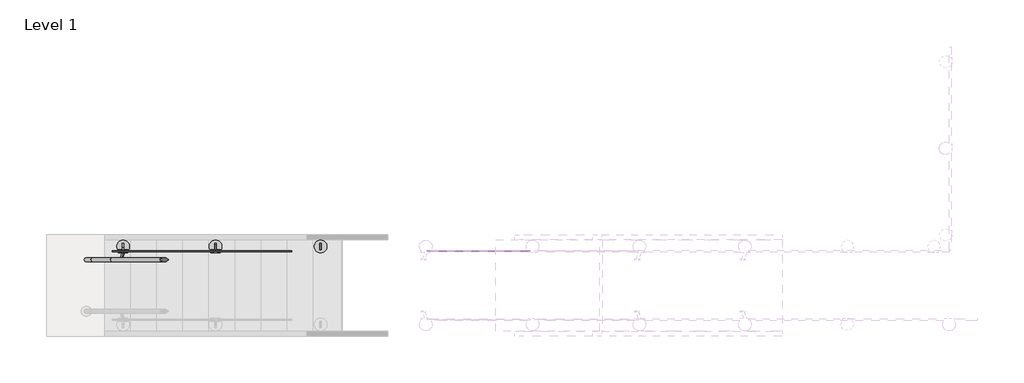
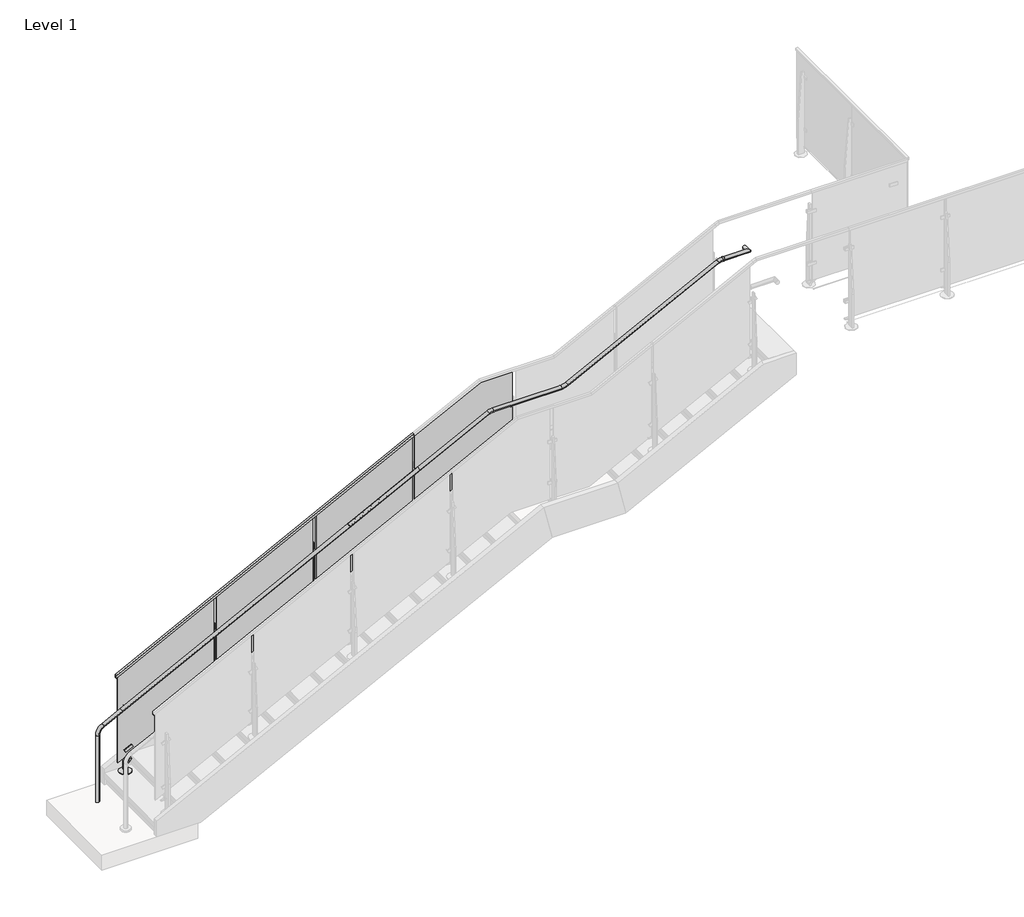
# One storey, part 6 of 37: 2 railings.
"""IFC4 building model written with IfcOpenShell, lengths in millimetres."""

from ifc_helpers import new_model, si_unit, point, frame, frame_2d, origin, place, context, project, spatial, polyline, circle_curve, ellipse_curve, trimmed, segment, composite_curve, outline, extrude, faceted_brep, transform, mapped, element, save
from ifc_brep_helpers import plane_surface, cylinder_surface, revolved_surface, advanced_brep
from components import baluster_landing_panel_viva_solo_lower_standard_glass_54ab52bf

model = new_model("IFC4")

# Units and contexts
model_context = context("Model", 3, world=origin())
ifc_project = project(units=[si_unit("LENGTHUNIT", "METRE", prefix="MILLI")], contexts=[model_context])

# Site, building, storey
site = spatial("IfcSite", under=ifc_project)
building = spatial("IfcBuilding", under=site)
storey = spatial("IfcBuildingStorey", under=building, Name="Level 1", Elevation=0.0)

# Railings
placement = place(None, origin())
baluster_landing_panel_viva_solo_lower_standard_glass_shape = baluster_landing_panel_viva_solo_lower_standard_glass_54ab52bf(model_context)
element("IfcRailing", 1, ObjectType="Baluster-Landing-Panel-VIVA-SOLO-Lower : Standard_Glass", at=placement, inside=storey, context=model_context, shape_type="MappedRepresentation", body=[
    mapped(baluster_landing_panel_viva_solo_lower_standard_glass_shape, transform((5248.4872811, -4858.7778686, 2120.3478261), x_axis=(0.0, -1.0, 0.0), y_axis=(1.0, 0.0, 0.0), z_axis=(0.0, 0.0, 1.0))),
])
element("IfcRailing", 2, ObjectType="VIVA-SOLO-Glass-Core Mount-Stair_Left_Lower", at=placement, inside=storey, context=model_context, shape_type="SolidModel", body=[
    advanced_brep(
    [(8465.7967094, -5003.2403686, 3758.1697243), (8465.7967094, -4965.1403686, 3758.1697243), (8738.8467094, -5003.2403686, 3758.1697243), (8700.7467094, -4965.1403686, 3758.1697243), (8738.8467094, -4920.6903686, 3758.1697243), (8700.7467094, -4920.6903686, 3758.1697243)],
    [
        (0, 1, circle_curve(frame((8465.7967094, -4984.1903686, 3758.1697243), z_axis=(-1.0, 0.0, 0.0), x_axis=(0.0, 1.0, 0.0)), 19.05)),
        (1, 0, circle_curve(frame((8465.7967094, -4984.1903686, 3758.1697243), z_axis=(-1.0, 0.0, 0.0), x_axis=(0.0, 1.0, 0.0)), 19.05)),
        (0, 2),
        (2, 3, ellipse_curve(frame((8719.7967094, -4984.1903686, 3758.1697243), z_axis=(-0.7071067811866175, -0.7071067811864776, 0.0), x_axis=(-0.7071067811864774, 0.7071067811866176, 0.0)), 26.9407684, 19.05)),
        (3, 1),
        (3, 2, ellipse_curve(frame((8719.7967094, -4984.1903686, 3758.1697243), z_axis=(-0.7071067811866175, -0.7071067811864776, 0.0), x_axis=(-0.7071067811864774, 0.7071067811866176, 0.0)), 26.9407684, 19.05)),
        (4, 5, circle_curve(frame((8719.7967094, -4920.6903686, 3758.1697243), z_axis=(0.0, 1.0, 0.0), x_axis=(-1.0, 0.0, 0.0)), 19.05)),
        (5, 4, circle_curve(frame((8719.7967094, -4920.6903686, 3758.1697243), z_axis=(0.0, 1.0, 0.0), x_axis=(-1.0, 0.0, 0.0)), 19.05)),
        (2, 4),
        (5, 3),
    ],
    [
        plane_surface(frame((8465.7967094, -4984.1903686, 3758.1697243), z_axis=(-1.0, 0.0, 0.0), x_axis=(0.0, 0.0, 1.0))),
        cylinder_surface(frame((8465.7967094, -4984.1903686, 3758.1697243), z_axis=(-1.0, 0.0, 0.0), x_axis=(0.0, 1.0, 0.0)), 19.05),
        plane_surface(frame((8719.7967094, -4920.6903686, 3758.1697243), z_axis=(0.0, 1.0, 0.0), x_axis=(0.0, 0.0, 1.0))),
        cylinder_surface(frame((8719.7967094, -4984.1903686, 3758.1697243), z_axis=(0.0, -1.0, 0.0), x_axis=(-1.0, 0.0, 0.0)), 19.05),
    ],
    [
        (0, [[1, 2]]),
        (1, [[-1, 3, 4, 5]]),
        (1, [[-2, -5, 6, -3]]),
        (2, [[7, 8]]),
        (3, [[-4, 9, -8, 10]]),
        (3, [[-6, -10, -7, -9]]),
    ],
),
    extrude(outline(composite_curve([segment(trimmed(circle_curve(frame_2d((1837.6886407, -4984.1903686)), 50.8), [point((1837.6886407, -4933.3903686))], [point((1837.6886407, -5034.9903686))], False, "CARTESIAN"), True, "CONTINUOUS"), segment(trimmed(circle_curve(frame_2d((1837.6886407, -4984.1903686)), 50.8), [point((1837.6886407, -5034.9903686))], [point((1837.6886407, -4933.3903686))], False, "CARTESIAN"), True, "CONTINUOUS")], self_intersect=False)), frame((0.0, 0.0, -25.6048219), z_axis=(0.0, 0.0, 1.0), x_axis=(1.0, 0.0, 0.0)), (0.0, 0.0, 1.0), 19.05),
    advanced_brep(
    [(1837.6886407, -5003.2403686, -6.5548219), (1837.6886407, -4965.1403686, -6.5548219), (1837.6886407, -5003.2403686, 742.5735715), (1837.6886407, -4965.1403686, 742.5735715), (1893.1999897, -4965.1403686, 833.1185672), (1893.1999897, -5003.2403686, 833.1185672), (2087.6302628, -5003.2403686, 932.0862566), (2087.6302628, -4965.1403686, 932.0862566), (5228.5886407, -5003.2403686, 2530.8773716), (5228.5886407, -4965.1403686, 2530.8773716)],
    [
        (0, 1, circle_curve(frame((1837.6886407, -4984.1903686, -6.5548219), z_axis=(0.0, 0.0, -1.0), x_axis=(0.0, 1.0, 0.0)), 19.05)),
        (1, 0, circle_curve(frame((1837.6886407, -4984.1903686, -6.5548219), z_axis=(0.0, 0.0, -1.0), x_axis=(0.0, 1.0, 0.0)), 19.05)),
        (0, 2),
        (2, 3, circle_curve(frame((1837.6886407, -4984.1903686, 742.5735715), z_axis=(0.0, 0.0, -1.0), x_axis=(0.0, 1.0, 0.0)), 19.05)),
        (3, 1),
        (3, 2, circle_curve(frame((1837.6886407, -4984.1903686, 742.5735715), z_axis=(0.0, 0.0, -1.0), x_axis=(0.0, 1.0, 0.0)), 19.05)),
        (4, 3, circle_curve(frame((1939.2886407, -4965.1403686, 742.5735715), z_axis=(0.0, -1.0, 0.0), x_axis=(-1.0, 0.0, 0.0)), 101.6)),
        (2, 5, circle_curve(frame((1939.2886407, -5003.2403686, 742.5735715), z_axis=(0.0, 1.0, 0.0), x_axis=(-1.0, 0.0, 0.0)), 101.6)),
        (5, 4, circle_curve(frame((1893.1999897, -4984.1903686, 833.1185672), z_axis=(-0.8911909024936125, 0.0, -0.45362845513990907), x_axis=(0.0, 1.0, 0.0)), 19.05)),
        (4, 5, circle_curve(frame((1893.1999897, -4984.1903686, 833.1185672), z_axis=(-0.8911909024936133, 0.0, -0.4536284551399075), x_axis=(0.0, 1.0, 0.0)), 19.05)),
        (5, 6),
        (6, 7, circle_curve(frame((2087.6302628, -4984.1903686, 932.0862566), z_axis=(-0.8911909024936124, 0.0, -0.4536284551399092), x_axis=(0.0, 1.0, 0.0)), 19.05)),
        (7, 4),
        (7, 6, circle_curve(frame((2087.6302628, -4984.1903686, 932.0862566), z_axis=(-0.8911909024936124, 0.0, -0.4536284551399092), x_axis=(0.0, 1.0, 0.0)), 19.05)),
        (8, 9, ellipse_curve(frame((5228.5886407, -4984.1903686, 2530.8773716), z_axis=(1.0, 0.0, 0.0), x_axis=(0.0, 0.0, -1.0)), 21.3758915, 19.05)),
        (9, 8, ellipse_curve(frame((5228.5886407, -4984.1903686, 2530.8773716), z_axis=(1.0, 0.0, 0.0), x_axis=(0.0, 0.0, -1.0)), 21.3758915, 19.05)),
        (6, 8),
        (9, 7),
    ],
    [
        plane_surface(frame((1818.6386407, -5022.2903686, -6.5548219), z_axis=(0.0, 0.0, -1.0), x_axis=(1.0, 0.0, 0.0))),
        cylinder_surface(frame((1837.6886407, -4984.1903686, -6.5548219), z_axis=(0.0, 0.0, -1.0), x_axis=(0.0, 1.0, 0.0)), 19.05),
        revolved_surface(trimmed(ellipse_curve(frame((1837.6886407, -4984.1903686, 742.5735715), z_axis=(0.0, 0.0, -1.0), x_axis=(0.0, 1.0, 0.0)), 19.05, 19.05), [point((1837.6886407, -5003.2403686, 742.5735715))], [point((1837.6886407, -4965.1403686, 742.5735715))], True, "CARTESIAN"), (1939.2886407, -4984.1903686, 742.5735715), (0.0, 1.0, 0.0)),
        revolved_surface(trimmed(ellipse_curve(frame((1837.6886407, -4984.1903686, 742.5735715), z_axis=(0.0, 0.0, -1.0), x_axis=(0.0, 1.0, 0.0)), 19.05, 19.05), [point((1837.6886407, -4965.1403686, 742.5735715))], [point((1837.6886407, -5003.2403686, 742.5735715))], True, "CARTESIAN"), (1939.2886407, -4984.1903686, 742.5735715), (0.0, 1.0, 0.0)),
        cylinder_surface(frame((1893.1999897, -4984.1903686, 833.1185672), z_axis=(-0.8911909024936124, 0.0, -0.4536284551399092), x_axis=(0.0, 1.0, 0.0)), 19.05),
        plane_surface(frame((5228.5886407, -4984.1903686, 2552.253263), z_axis=(1.0, 0.0, 0.0), x_axis=(0.0, 1.0, 0.0))),
        cylinder_surface(frame((2087.6302628, -4984.1903686, 932.0862566), z_axis=(-0.8911909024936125, 0.0, -0.45362845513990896), x_axis=(0.0, 1.0, 0.0)), 19.05),
    ],
    [
        (0, [[1, 2]]),
        (1, [[-1, 3, 4, 5]]),
        (1, [[-2, -5, 6, -3]]),
        (2, [[7, -4, 8, 9]]),
        (3, [[-8, -6, -7, 10]]),
        (4, [[-9, 11, 12, 13]]),
        (4, [[-10, -13, 14, -11]]),
        (5, [[15, 16]]),
        (6, [[-12, 17, -16, 18]]),
        (6, [[-14, -18, -15, -17]]),
    ],
),
    advanced_brep(
    [(4486.8995652, -5003.2403686, 2153.3474074), (4486.8995652, -4965.1403686, 2153.3474074), (5969.5451433, -5003.2403686, 2908.0344461), (5969.5451433, -4965.1403686, 2908.0344461), (6015.6337944, -4965.1403686, 2919.0894504), (6015.6337944, -5003.2403686, 2919.0894504), (6738.8046315, -5003.2403686, 2919.0894504), (6738.8046315, -4965.1403686, 2919.0894504), (6802.1765267, -4965.1403686, 2934.2900813), (6802.1765267, -5003.2403686, 2934.2900813), (8399.0382648, -5003.2403686, 3747.11472), (8399.0382648, -4965.1403686, 3747.11472), (8445.1269158, -4965.1403686, 3758.1697243), (8445.1269158, -5003.2403686, 3758.1697243), (8465.7967094, -5003.2403686, 3758.1697243), (8465.7967094, -4965.1403686, 3758.1697243)],
    [
        (0, 1, ellipse_curve(frame((4486.8995652, -4984.1903686, 2153.3474074), z_axis=(-1.0, 0.0, 0.0), x_axis=(0.0, 0.0, -1.0)), 21.3758915, 19.05)),
        (1, 0, ellipse_curve(frame((4486.8995652, -4984.1903686, 2153.3474074), z_axis=(-1.0, 0.0, 0.0), x_axis=(0.0, 0.0, -1.0)), 21.3758915, 19.05)),
        (0, 2),
        (2, 3, circle_curve(frame((5969.5451433, -4984.1903686, 2908.0344461), z_axis=(-0.891190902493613, 0.0, -0.45362845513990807), x_axis=(0.0, 1.0, 0.0)), 19.05)),
        (3, 1),
        (3, 2, circle_curve(frame((5969.5451433, -4984.1903686, 2908.0344461), z_axis=(-0.891190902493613, 0.0, -0.45362845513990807), x_axis=(0.0, 1.0, 0.0)), 19.05)),
        (4, 3, circle_curve(frame((6015.6337944, -4965.1403686, 2817.4894504), z_axis=(0.0, -1.0, 0.0), x_axis=(-0.45362845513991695, 0.0, 0.8911909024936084)), 101.6)),
        (2, 5, circle_curve(frame((6015.6337944, -5003.2403686, 2817.4894504), z_axis=(0.0, 1.0, 0.0), x_axis=(-0.45362845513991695, 0.0, 0.8911909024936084)), 101.6)),
        (5, 4, circle_curve(frame((6015.6337944, -4984.1903686, 2919.0894504), z_axis=(-1.0, 0.0, 0.0), x_axis=(0.0, 1.0, 0.0)), 19.05)),
        (4, 5, circle_curve(frame((6015.6337944, -4984.1903686, 2919.0894504), z_axis=(-1.0, 0.0, 0.0), x_axis=(0.0, 1.0, 0.0)), 19.05)),
        (5, 6),
        (6, 7, circle_curve(frame((6738.8046315, -4984.1903686, 2919.0894504), z_axis=(-1.0, 0.0, 0.0), x_axis=(0.0, 1.0, 0.0)), 19.05)),
        (7, 4),
        (7, 6, circle_curve(frame((6738.8046315, -4984.1903686, 2919.0894504), z_axis=(-1.0, 0.0, 0.0), x_axis=(0.0, 1.0, 0.0)), 19.05)),
        (8, 7, circle_curve(frame((6738.8046315, -4965.1403686, 3058.7894504), z_axis=(0.0, 1.0, 0.0), x_axis=(0.0, 0.0, -1.0)), 139.7)),
        (6, 9, circle_curve(frame((6738.8046315, -5003.2403686, 3058.7894504), z_axis=(0.0, -1.0, 0.0), x_axis=(0.0, 0.0, -1.0)), 139.7)),
        (9, 8, circle_curve(frame((6802.1765267, -4984.1903686, 2934.2900813), z_axis=(-0.8911909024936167, 0.0, -0.4536284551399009), x_axis=(0.0, 1.0, 0.0)), 19.05)),
        (8, 9, circle_curve(frame((6802.1765267, -4984.1903686, 2934.2900813), z_axis=(-0.8911909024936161, 0.0, -0.4536284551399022), x_axis=(0.0, 1.0, 0.0)), 19.05)),
        (9, 10),
        (10, 11, circle_curve(frame((8399.0382648, -4984.1903686, 3747.11472), z_axis=(-0.8911909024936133, 0.0, -0.4536284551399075), x_axis=(0.0, 1.0, 0.0)), 19.05)),
        (11, 8),
        (11, 10, circle_curve(frame((8399.0382648, -4984.1903686, 3747.11472), z_axis=(-0.8911909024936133, 0.0, -0.4536284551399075), x_axis=(0.0, 1.0, 0.0)), 19.05)),
        (12, 11, circle_curve(frame((8445.1269158, -4965.1403686, 3656.5697243), z_axis=(0.0, -1.0, 0.0), x_axis=(-0.45362845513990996, 0.0, 0.891190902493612)), 101.6)),
        (10, 13, circle_curve(frame((8445.1269158, -5003.2403686, 3656.5697243), z_axis=(0.0, 1.0, 0.0), x_axis=(-0.45362845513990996, 0.0, 0.891190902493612)), 101.6)),
        (13, 12, circle_curve(frame((8445.1269158, -4984.1903686, 3758.1697243), z_axis=(-1.0, 0.0, 0.0), x_axis=(0.0, 1.0, 0.0)), 19.05)),
        (12, 13, circle_curve(frame((8445.1269158, -4984.1903686, 3758.1697243), z_axis=(-1.0, 0.0, 0.0), x_axis=(0.0, 1.0, 0.0)), 19.05)),
        (14, 15, circle_curve(frame((8465.7967094, -4984.1903686, 3758.1697243), z_axis=(1.0, 0.0, 0.0), x_axis=(0.0, 1.0, 0.0)), 19.05)),
        (15, 14, circle_curve(frame((8465.7967094, -4984.1903686, 3758.1697243), z_axis=(1.0, 0.0, 0.0), x_axis=(0.0, 1.0, 0.0)), 19.05)),
        (13, 14),
        (15, 12),
    ],
    [
        plane_surface(frame((4486.8995652, -4984.1903686, 2174.7232988), z_axis=(-1.0, 0.0, 0.0), x_axis=(0.0, 1.0, 0.0))),
        cylinder_surface(frame((4495.5411873, -4984.1903686, 2157.7461121), z_axis=(-0.891190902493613, 0.0, -0.45362845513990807), x_axis=(0.0, 1.0, 0.0)), 19.05),
        revolved_surface(trimmed(ellipse_curve(frame((5969.5451433, -4984.1903686, 2908.0344461), z_axis=(-0.8911909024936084, 0.0, -0.453628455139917), x_axis=(0.0, 1.0, 0.0)), 19.05, 19.05), [point((5969.5451433, -5003.2403686, 2908.0344461))], [point((5969.5451433, -4965.1403686, 2908.0344461))], True, "CARTESIAN"), (6015.6337944, -4984.1903686, 2817.4894504), (0.0, 1.0, 0.0)),
        revolved_surface(trimmed(ellipse_curve(frame((5969.5451433, -4984.1903686, 2908.0344461), z_axis=(-0.8911909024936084, 0.0, -0.453628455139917), x_axis=(0.0, 1.0, 0.0)), 19.05, 19.05), [point((5969.5451433, -4965.1403686, 2908.0344461))], [point((5969.5451433, -5003.2403686, 2908.0344461))], True, "CARTESIAN"), (6015.6337944, -4984.1903686, 2817.4894504), (0.0, 1.0, 0.0)),
        cylinder_surface(frame((6015.6337944, -4984.1903686, 2919.0894504), z_axis=(-1.0, 0.0, 0.0), x_axis=(0.0, 1.0, 0.0)), 19.05),
        revolved_surface(trimmed(ellipse_curve(frame((6738.8046315, -4984.1903686, 2919.0894504), z_axis=(-1.0, 0.0, 0.0), x_axis=(0.0, 1.0, 0.0)), 19.05, 19.05), [point((6738.8046315, -5003.2403686, 2919.0894504))], [point((6738.8046315, -4965.1403686, 2919.0894504))], True, "CARTESIAN"), (6738.8046315, -4984.1903686, 3058.7894504), (0.0, -1.0, 0.0)),
        revolved_surface(trimmed(ellipse_curve(frame((6738.8046315, -4984.1903686, 2919.0894504), z_axis=(-1.0, 0.0, 0.0), x_axis=(0.0, 1.0, 0.0)), 19.05, 19.05), [point((6738.8046315, -4965.1403686, 2919.0894504))], [point((6738.8046315, -5003.2403686, 2919.0894504))], True, "CARTESIAN"), (6738.8046315, -4984.1903686, 3058.7894504), (0.0, -1.0, 0.0)),
        cylinder_surface(frame((6802.1765267, -4984.1903686, 2934.2900813), z_axis=(-0.8911909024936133, 0.0, -0.4536284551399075), x_axis=(0.0, 1.0, 0.0)), 19.05),
        revolved_surface(trimmed(ellipse_curve(frame((8399.0382648, -4984.1903686, 3747.11472), z_axis=(-0.891190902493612, 0.0, -0.45362845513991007), x_axis=(0.0, 1.0, 0.0)), 19.05, 19.05), [point((8399.0382648, -5003.2403686, 3747.11472))], [point((8399.0382648, -4965.1403686, 3747.11472))], True, "CARTESIAN"), (8445.1269158, -4984.1903686, 3656.5697243), (0.0, 1.0, 0.0)),
        revolved_surface(trimmed(ellipse_curve(frame((8399.0382648, -4984.1903686, 3747.11472), z_axis=(-0.891190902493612, 0.0, -0.45362845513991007), x_axis=(0.0, 1.0, 0.0)), 19.05, 19.05), [point((8399.0382648, -4965.1403686, 3747.11472))], [point((8399.0382648, -5003.2403686, 3747.11472))], True, "CARTESIAN"), (8445.1269158, -4984.1903686, 3656.5697243), (0.0, 1.0, 0.0)),
        plane_surface(frame((8465.7967094, -4984.1903686, 3777.2197243), z_axis=(1.0, 0.0, 0.0), x_axis=(0.0, 1.0, 0.0))),
        cylinder_surface(frame((8445.1269158, -4984.1903686, 3758.1697243), z_axis=(-1.0, 0.0, 0.0), x_axis=(0.0, 1.0, 0.0)), 19.05),
    ],
    [
        (0, [[1, 2]]),
        (1, [[-1, 3, 4, 5]]),
        (1, [[-2, -5, 6, -3]]),
        (2, [[7, -4, 8, 9]]),
        (3, [[-8, -6, -7, 10]]),
        (4, [[-9, 11, 12, 13]]),
        (4, [[-10, -13, 14, -11]]),
        (5, [[15, -12, 16, 17]]),
        (6, [[-16, -14, -15, 18]]),
        (7, [[-17, 19, 20, 21]]),
        (7, [[-18, -21, 22, -19]]),
        (8, [[23, -20, 24, 25]]),
        (9, [[-24, -22, -23, 26]]),
        (10, [[27, 28]]),
        (11, [[-25, 29, -28, 30]]),
        (11, [[-26, -30, -27, -29]]),
    ],
),
    faceted_brep([(2078.9886407, -4909.5778686, 1279.2634433), (2078.9886407, -4887.3528686, 1279.2634433), (2078.9886407, -4887.3528686, 1250.7622547), (2078.9886407, -4892.1153686, 1250.7622547), (2078.9886407, -4892.1153686, 1273.9194705), (2078.9886407, -4904.8153686, 1273.9194705), (2078.9886407, -4904.8153686, 1250.7622547), (2078.9886407, -4909.5778686, 1250.7622547), (5228.5886407, -4909.5778686, 2882.453263), (5228.5886407, -4909.5778686, 2853.9520744), (5228.5886407, -4904.8153686, 2853.9520744), (5228.5886407, -4904.8153686, 2877.1092902), (5228.5886407, -4892.1153686, 2877.1092902), (5228.5886407, -4892.1153686, 2853.9520744), (5228.5886407, -4887.3528686, 2853.9520744), (5228.5886407, -4887.3528686, 2882.453263)], [[[0, 1, 2, 3, 4, 5, 6, 7]], [[8, 9, 10, 11, 12, 13, 14, 15]], [[1, 0, 8, 15]], [[2, 1, 15, 14]], [[3, 2, 14, 13]], [[4, 3, 13, 12]], [[5, 4, 12, 11]], [[6, 5, 11, 10]], [[7, 6, 10, 9]], [[0, 7, 9, 8]]]),
    extrude(outline(polyline([(2868.4999629, 5212.038354), (2351.3419566, 4196.038354), (1351.5601273, 4196.038354), (1868.7181336, 5212.038354), (2868.4999629, 5212.038354)])), frame((0.0, -4904.8153686, 0.0), z_axis=(0.0, 1.0, 0.0), x_axis=(0.0, 0.0, 1.0)), (0.0, 0.0, 1.0), 12.7),
    extrude(outline(polyline([(-12.7, 0.0), (0.0, 0.0), (0.0, -3.175), (58.7375, -34.925), (61.9125, -34.925), (61.9125, -65.0875), (50.8, -65.0875), (-12.7, -3.175), (-12.7, 0.0)])), frame((4151.0933347, -4976.2528686, 1962.9790724), z_axis=(0.8987940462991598, 0.0, 0.4383711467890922), x_axis=(0.0, 1.0, 0.0)), (0.0, 0.0, 1.0), 12.7),
    extrude(outline(polyline([(-4882.5903686, 2017.8566565), (-4857.1903686, 2017.8566565), (-4819.0903686, 1484.4566565), (-4819.0903686, 1192.6956522), (-4882.5903686, 1192.6956522), (-4882.5903686, 2017.8566565)])), frame((4172.3719741, 0.0, 0.0), z_axis=(1.0, 0.0, 0.0), x_axis=(0.0, 1.0, 0.0)), (0.0, 0.0, 1.0), 12.7),
    extrude(outline(polyline([(0.0, 88.9), (9.525, 88.9), (9.525, 0.0), (0.0, 0.0), (0.0, 88.9)])), frame((4225.6325114, -4914.3403686, 1926.0346514), z_axis=(-0.4383711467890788, 0.0, 0.8987940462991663), x_axis=(0.0, 1.0, 0.0)), (0.0, 0.0, 1.0), 31.75),
    extrude(outline(polyline([(0.0, 88.9), (9.525, 88.9), (9.525, 0.0), (0.0, 0.0), (0.0, 88.9)])), frame((4225.6325114, -4892.1153686, 1926.0346514), z_axis=(-0.4383711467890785, 0.0, 0.8987940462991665), x_axis=(0.0, 1.0, 0.0)), (0.0, 0.0, 1.0), 31.75),
    extrude(outline(polyline([(0.0, 88.9), (9.525, 88.9), (9.525, 0.0), (0.0, 0.0), (0.0, 88.9)])), frame((4225.6325114, -4892.1153686, 1488.6985595), z_axis=(-0.43837114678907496, 0.0, 0.8987940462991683), x_axis=(0.0, 1.0, 0.0)), (0.0, 0.0, 1.0), 31.75),
    extrude(outline(polyline([(0.0, 88.9), (9.525, 88.9), (9.525, 0.0), (0.0, 0.0), (0.0, 88.9)])), frame((4225.6325114, -4914.3403686, 1488.6985595), z_axis=(-0.4383711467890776, 0.0, 0.8987940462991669), x_axis=(0.0, 1.0, 0.0)), (0.0, 0.0, 1.0), 31.75),
    extrude(outline(polyline([(1355.2098744, 4214.4838968), (1360.9172166, 4211.70024), (1321.9460217, 4131.7974493), (1316.2386795, 4134.5811061), (1316.0275211, 4184.1392511), (1355.2098744, 4214.4838968)])), frame((0.0, -4904.8153686, 0.0), z_axis=(0.0, 1.0, 0.0), x_axis=(0.0, 0.0, 1.0)), (0.0, 0.0, 1.0), 12.7),
    extrude(outline(composite_curve([segment(trimmed(circle_curve(frame_2d((24.5007933, -6.6985914)), 25.4), [point((0.0, 0.0))], [point((6.4034747, 11.1240644))], False, "CARTESIAN"), True, "CONTINUOUS"), segment(polyline([(6.4034747, 11.1240644), (8.7901893, 9.7460941)]), True, "CONTINUOUS"), segment(trimmed(circle_curve(frame_2d((26.8875079, -8.0765617)), 25.4), [point((8.7901893, 9.7460941))], [point((2.8057896, 0.0))], True, "CARTESIAN"), True, "CONTINUOUS"), segment(polyline([(2.8057896, 0.0), (0.0, 0.0)]), True, "CONTINUOUS")], self_intersect=False)), frame((4135.1722172, -4976.1536223, 1952.1658736), z_axis=(0.8987940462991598, 0.0, 0.4383711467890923), x_axis=(-0.379640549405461, -0.5000000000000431, 0.7783784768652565)), (0.0, 0.0, 1.0), 50.8),
    extrude(outline(composite_curve([segment(trimmed(circle_curve(frame_2d((4178.7219741, -4850.8403686)), 63.5), [point((4178.7219741, -4787.3403686))], [point((4178.7219741, -4914.3403686))], False, "CARTESIAN"), True, "CONTINUOUS"), segment(trimmed(circle_curve(frame_2d((4178.7219741, -4850.8403686)), 63.5), [point((4178.7219741, -4914.3403686))], [point((4178.7219741, -4787.3403686))], False, "CARTESIAN"), True, "CONTINUOUS")], self_intersect=False)), frame((0.0, 0.0, 1192.6956522), z_axis=(0.0, 0.0, 1.0), x_axis=(1.0, 0.0, 0.0)), (0.0, 0.0, 1.0), 3.175),
    extrude(outline(composite_curve([segment(trimmed(circle_curve(frame_2d((1484.5416522, 4178.7219741)), 6.35), [point((1484.5416522, 4185.0719741))], [point((1484.5416522, 4172.3719741))], False, "CARTESIAN"), True, "CONTINUOUS"), segment(trimmed(circle_curve(frame_2d((1484.5416522, 4178.7219741)), 6.35), [point((1484.5416522, 4172.3719741))], [point((1484.5416522, 4185.0719741))], False, "CARTESIAN"), True, "CONTINUOUS")], self_intersect=False)), frame((0.0, -4904.8153686, 0.0), z_axis=(0.0, 1.0, 0.0), x_axis=(0.0, 0.0, 1.0)), (0.0, 0.0, 1.0), 12.7),
    extrude(outline(composite_curve([segment(trimmed(circle_curve(frame_2d((1920.8174094, 4178.7219741)), 6.35), [point((1920.8174094, 4185.0719741))], [point((1920.8174094, 4172.3719741))], False, "CARTESIAN"), True, "CONTINUOUS"), segment(trimmed(circle_curve(frame_2d((1920.8174094, 4178.7219741)), 6.35), [point((1920.8174094, 4172.3719741))], [point((1920.8174094, 4185.0719741))], False, "CARTESIAN"), True, "CONTINUOUS")], self_intersect=False)), frame((0.0, -4904.8153686, 0.0), z_axis=(0.0, 1.0, 0.0), x_axis=(0.0, 0.0, 1.0)), (0.0, 0.0, 1.0), 12.7),
    extrude(outline(composite_curve([segment(trimmed(circle_curve(frame_2d((1327.2225111, 4178.7219741)), 11.1125), [point((1327.2225111, 4189.8344741))], [point((1327.2225111, 4167.6094741))], False, "CARTESIAN"), True, "CONTINUOUS"), segment(trimmed(circle_curve(frame_2d((1327.2225111, 4178.7219741)), 11.1125), [point((1327.2225111, 4167.6094741))], [point((1327.2225111, 4189.8344741))], False, "CARTESIAN"), True, "CONTINUOUS")], self_intersect=False)), frame((0.0, -4907.9903686, 0.0), z_axis=(0.0, 1.0, 0.0), x_axis=(0.0, 0.0, 1.0)), (0.0, 0.0, 1.0), 25.4),
    extrude(outline(polyline([(2334.1033564, 4162.1716873), (1816.94535, 3146.1716873), (821.4731707, 3146.1716873), (1338.6311771, 4162.1716873), (2334.1033564, 4162.1716873)])), frame((0.0, -4904.8153686, 0.0), z_axis=(0.0, 1.0, 0.0), x_axis=(0.0, 0.0, 1.0)), (0.0, 0.0, 1.0), 12.7),
    extrude(outline(polyline([(-12.7, 0.0), (0.0, 0.0), (0.0, -3.175), (58.7375, -34.925), (61.9125, -34.925), (61.9125, -65.0875), (50.8, -65.0875), (-12.7, -3.175), (-12.7, 0.0)])), frame((3101.226668, -4976.2528686, 1428.5824658), z_axis=(0.8987940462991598, 0.0, 0.4383711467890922), x_axis=(0.0, 1.0, 0.0)), (0.0, 0.0, 1.0), 12.7),
    extrude(outline(polyline([(-4882.5903686, 1483.4600499), (-4857.1903686, 1483.4600499), (-4819.0903686, 950.0600499), (-4819.0903686, 662.6086957), (-4882.5903686, 662.6086957), (-4882.5903686, 1483.4600499)])), frame((3122.5053074, 0.0, 0.0), z_axis=(1.0, 0.0, 0.0), x_axis=(0.0, 1.0, 0.0)), (0.0, 0.0, 1.0), 12.7),
    extrude(outline(polyline([(0.0, 88.9), (9.525, 88.9), (9.525, 0.0), (0.0, 0.0), (0.0, 88.9)])), frame((3175.7658447, -4914.3403686, 1391.6380448), z_axis=(-0.4383711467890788, 0.0, 0.8987940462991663), x_axis=(0.0, 1.0, 0.0)), (0.0, 0.0, 1.0), 31.75),
    extrude(outline(polyline([(0.0, 88.9), (9.525, 88.9), (9.525, 0.0), (0.0, 0.0), (0.0, 88.9)])), frame((3175.7658447, -4892.1153686, 1391.6380448), z_axis=(-0.4383711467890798, 0.0, 0.8987940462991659), x_axis=(0.0, 1.0, 0.0)), (0.0, 0.0, 1.0), 31.75),
    extrude(outline(polyline([(0.0, 88.9), (9.525, 88.9), (9.525, 0.0), (0.0, 0.0), (0.0, 88.9)])), frame((3175.7658447, -4892.1153686, 958.611603), z_axis=(-0.43837114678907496, 0.0, 0.8987940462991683), x_axis=(0.0, 1.0, 0.0)), (0.0, 0.0, 1.0), 31.75),
    extrude(outline(polyline([(0.0, 88.9), (9.525, 88.9), (9.525, 0.0), (0.0, 0.0), (0.0, 88.9)])), frame((3175.7658447, -4914.3403686, 958.611603), z_axis=(-0.4383711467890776, 0.0, 0.8987940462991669), x_axis=(0.0, 1.0, 0.0)), (0.0, 0.0, 1.0), 31.75),
    extrude(outline(polyline([(825.1229179, 3164.6172301), (830.8302601, 3161.8335734), (791.8590651, 3081.9307826), (786.151723, 3084.7144394), (785.9405646, 3134.2725845), (825.1229179, 3164.6172301)])), frame((0.0, -4904.8153686, 0.0), z_axis=(0.0, 1.0, 0.0), x_axis=(0.0, 0.0, 1.0)), (0.0, 0.0, 1.0), 12.7),
    extrude(outline(composite_curve([segment(trimmed(circle_curve(frame_2d((24.5007933, -6.6985914)), 25.4), [point((0.0, 0.0))], [point((6.4034746, 11.1240644))], False, "CARTESIAN"), True, "CONTINUOUS"), segment(polyline([(6.4034746, 11.1240644), (8.7901892, 9.7460941)]), True, "CONTINUOUS"), segment(trimmed(circle_curve(frame_2d((26.8875077, -8.0765617)), 25.4), [point((8.7901892, 9.7460941))], [point((2.8057896, 0.0))], True, "CARTESIAN"), True, "CONTINUOUS"), segment(polyline([(2.8057896, 0.0), (0.0, 0.0)]), True, "CONTINUOUS")], self_intersect=False)), frame((3085.3055505, -4976.1536223, 1417.7692671), z_axis=(0.8987940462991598, 0.0, 0.4383711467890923), x_axis=(-0.379640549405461, -0.5000000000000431, 0.7783784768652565)), (0.0, 0.0, 1.0), 50.8),
    extrude(outline(composite_curve([segment(trimmed(circle_curve(frame_2d((3128.8553074, -4850.8403686)), 63.5), [point((3128.8553074, -4787.3403686))], [point((3128.8553074, -4914.3403686))], False, "CARTESIAN"), True, "CONTINUOUS"), segment(trimmed(circle_curve(frame_2d((3128.8553074, -4850.8403686)), 63.5), [point((3128.8553074, -4914.3403686))], [point((3128.8553074, -4787.3403686))], False, "CARTESIAN"), True, "CONTINUOUS")], self_intersect=False)), frame((0.0, 0.0, 662.6086957), z_axis=(0.0, 0.0, 1.0), x_axis=(1.0, 0.0, 0.0)), (0.0, 0.0, 1.0), 3.175),
    extrude(outline(composite_curve([segment(trimmed(circle_curve(frame_2d((954.4546957, 3128.8553074)), 6.35), [point((954.4546957, 3135.2053074))], [point((954.4546957, 3122.5053074))], False, "CARTESIAN"), True, "CONTINUOUS"), segment(trimmed(circle_curve(frame_2d((954.4546957, 3128.8553074)), 6.35), [point((954.4546957, 3122.5053074))], [point((954.4546957, 3135.2053074))], False, "CARTESIAN"), True, "CONTINUOUS")], self_intersect=False)), frame((0.0, -4904.8153686, 0.0), z_axis=(0.0, 1.0, 0.0), x_axis=(0.0, 0.0, 1.0)), (0.0, 0.0, 1.0), 12.7),
    extrude(outline(composite_curve([segment(trimmed(circle_curve(frame_2d((1386.4208028, 3128.8553074)), 6.35), [point((1386.4208028, 3135.2053074))], [point((1386.4208028, 3122.5053074))], False, "CARTESIAN"), True, "CONTINUOUS"), segment(trimmed(circle_curve(frame_2d((1386.4208028, 3128.8553074)), 6.35), [point((1386.4208028, 3122.5053074))], [point((1386.4208028, 3135.2053074))], False, "CARTESIAN"), True, "CONTINUOUS")], self_intersect=False)), frame((0.0, -4904.8153686, 0.0), z_axis=(0.0, 1.0, 0.0), x_axis=(0.0, 0.0, 1.0)), (0.0, 0.0, 1.0), 12.7),
    extrude(outline(composite_curve([segment(trimmed(circle_curve(frame_2d((797.1355546, 3128.8553074)), 11.1125), [point((797.1355546, 3139.9678074))], [point((797.1355546, 3117.7428074))], False, "CARTESIAN"), True, "CONTINUOUS"), segment(trimmed(circle_curve(frame_2d((797.1355546, 3128.8553074)), 11.1125), [point((797.1355546, 3117.7428074))], [point((797.1355546, 3139.9678074))], False, "CARTESIAN"), True, "CONTINUOUS")], self_intersect=False)), frame((0.0, -4907.9903686, 0.0), z_axis=(0.0, 1.0, 0.0), x_axis=(0.0, 0.0, 1.0)), (0.0, 0.0, 1.0), 25.4),
    extrude(outline(polyline([(1799.7067498, 3112.3050207), (1282.5487434, 2096.3050207), (291.3862142, 2096.3050207), (808.5442206, 3112.3050207), (1799.7067498, 3112.3050207)])), frame((0.0, -4904.8153686, 0.0), z_axis=(0.0, 1.0, 0.0), x_axis=(0.0, 0.0, 1.0)), (0.0, 0.0, 1.0), 12.7),
    extrude(outline(polyline([(-12.7, 0.0), (0.0, 0.0), (0.0, -3.175), (58.7375, -34.9249999), (61.9125, -34.9249999), (61.9125, -65.0874999), (50.8, -65.0874999), (-12.7, -3.175), (-12.7, 0.0)])), frame((2178.3600014, -4976.2528686, 958.83061), z_axis=(0.8987940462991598, 0.0, 0.4383711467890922), x_axis=(0.0, 1.0, 0.0)), (0.0, 0.0, 1.0), 12.7),
    extrude(outline(polyline([(-4882.5903686, 1013.7081941), (-4857.1903686, 1013.7081941), (-4819.0903686, 480.3081941), (-4819.0903686, 132.5217391), (-4882.5903686, 132.5217391), (-4882.5903686, 1013.7081941)])), frame((2199.6386407, 0.0, 0.0), z_axis=(1.0, 0.0, 0.0), x_axis=(0.0, 1.0, 0.0)), (0.0, 0.0, 1.0), 12.7),
    extrude(outline(polyline([(0.0, 88.9), (9.525, 88.9), (9.525, 0.0), (0.0, 0.0), (0.0, 88.9)])), frame((2252.899178, -4914.3403686, 921.886189), z_axis=(-0.4383711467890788, 0.0, 0.8987940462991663), x_axis=(0.0, 1.0, 0.0)), (0.0, 0.0, 1.0), 31.75),
    extrude(outline(polyline([(0.0, 88.9), (9.525, 88.9), (9.525, 0.0), (0.0, 0.0), (0.0, 88.9)])), frame((2252.899178, -4892.1153686, 921.886189), z_axis=(-0.4383711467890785, 0.0, 0.8987940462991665), x_axis=(0.0, 1.0, 0.0)), (0.0, 0.0, 1.0), 31.75),
    extrude(outline(polyline([(0.0, 88.9), (9.525, 88.9), (9.525, 0.0), (0.0, 0.0), (0.0, 88.9)])), frame((2252.899178, -4892.1153686, 428.5246464), z_axis=(-0.4383711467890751, 0.0, 0.8987940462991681), x_axis=(0.0, 1.0, 0.0)), (0.0, 0.0, 1.0), 31.75),
    extrude(outline(polyline([(0.0, 88.9), (9.525, 88.9), (9.525, 0.0), (0.0, 0.0), (0.0, 88.9)])), frame((2252.899178, -4914.3403686, 428.5246464), z_axis=(-0.4383711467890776, 0.0, 0.8987940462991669), x_axis=(0.0, 1.0, 0.0)), (0.0, 0.0, 1.0), 31.75),
    extrude(outline(polyline([(295.0359614, 2241.7505635), (300.7433036, 2238.9669067), (261.7721086, 2159.064116), (256.0647664, 2161.8477728), (255.8536081, 2211.4059178), (295.0359614, 2241.7505635)])), frame((0.0, -4904.8153686, 0.0), z_axis=(0.0, 1.0, 0.0), x_axis=(0.0, 0.0, 1.0)), (0.0, 0.0, 1.0), 12.7),
    extrude(outline(composite_curve([segment(trimmed(circle_curve(frame_2d((24.5007933, -6.6985914)), 25.4), [point((0.0, 0.0))], [point((6.4034746, 11.1240644))], False, "CARTESIAN"), True, "CONTINUOUS"), segment(polyline([(6.4034746, 11.1240644), (8.7901892, 9.7460941)]), True, "CONTINUOUS"), segment(trimmed(circle_curve(frame_2d((26.8875078, -8.0765617)), 25.4), [point((8.7901892, 9.7460941))], [point((2.8057896, 0.0))], True, "CARTESIAN"), True, "CONTINUOUS"), segment(polyline([(2.8057896, 0.0), (0.0, 0.0)]), True, "CONTINUOUS")], self_intersect=False)), frame((2162.4388838, -4976.1536223, 948.0174113), z_axis=(0.8987940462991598, 0.0, 0.4383711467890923), x_axis=(-0.3796405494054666, -0.500000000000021, 0.7783784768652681)), (0.0, 0.0, 1.0), 50.8),
    extrude(outline(composite_curve([segment(trimmed(circle_curve(frame_2d((2205.9886407, -4850.8403686)), 63.5), [point((2205.9886407, -4787.3403686))], [point((2205.9886407, -4914.3403686))], False, "CARTESIAN"), True, "CONTINUOUS"), segment(trimmed(circle_curve(frame_2d((2205.9886407, -4850.8403686)), 63.5), [point((2205.9886407, -4914.3403686))], [point((2205.9886407, -4787.3403686))], False, "CARTESIAN"), True, "CONTINUOUS")], self_intersect=False)), frame((0.0, 0.0, 132.5217391), z_axis=(0.0, 0.0, 1.0), x_axis=(1.0, 0.0, 0.0)), (0.0, 0.0, 1.0), 3.175),
    extrude(outline(composite_curve([segment(trimmed(circle_curve(frame_2d((424.3677391, 2205.9886407)), 6.35), [point((424.3677391, 2212.3386407))], [point((424.3677391, 2199.6386407))], False, "CARTESIAN"), True, "CONTINUOUS"), segment(trimmed(circle_curve(frame_2d((424.3677391, 2205.9886407)), 6.35), [point((424.3677391, 2199.6386407))], [point((424.3677391, 2212.3386407))], False, "CARTESIAN"), True, "CONTINUOUS")], self_intersect=False)), frame((0.0, -4904.8153686, 0.0), z_axis=(0.0, 1.0, 0.0), x_axis=(0.0, 0.0, 1.0)), (0.0, 0.0, 1.0), 12.7),
    extrude(outline(composite_curve([segment(trimmed(circle_curve(frame_2d((916.668947, 2205.9886407)), 6.35), [point((916.668947, 2212.3386407))], [point((916.668947, 2199.6386407))], False, "CARTESIAN"), True, "CONTINUOUS"), segment(trimmed(circle_curve(frame_2d((916.668947, 2205.9886407)), 6.35), [point((916.668947, 2199.6386407))], [point((916.668947, 2212.3386407))], False, "CARTESIAN"), True, "CONTINUOUS")], self_intersect=False)), frame((0.0, -4904.8153686, 0.0), z_axis=(0.0, 1.0, 0.0), x_axis=(0.0, 0.0, 1.0)), (0.0, 0.0, 1.0), 12.7),
    extrude(outline(composite_curve([segment(trimmed(circle_curve(frame_2d((267.048598, 2205.9886407)), 11.1125), [point((267.048598, 2217.1011407))], [point((267.048598, 2194.8761407))], False, "CARTESIAN"), True, "CONTINUOUS"), segment(trimmed(circle_curve(frame_2d((267.048598, 2205.9886407)), 11.1125), [point((267.048598, 2194.8761407))], [point((267.048598, 2217.1011407))], False, "CARTESIAN"), True, "CONTINUOUS")], self_intersect=False)), frame((0.0, -4907.9903686, 0.0), z_axis=(0.0, 1.0, 0.0), x_axis=(0.0, 0.0, 1.0)), (0.0, 0.0, 1.0), 25.4),
])

save(model, "model.ifc")
